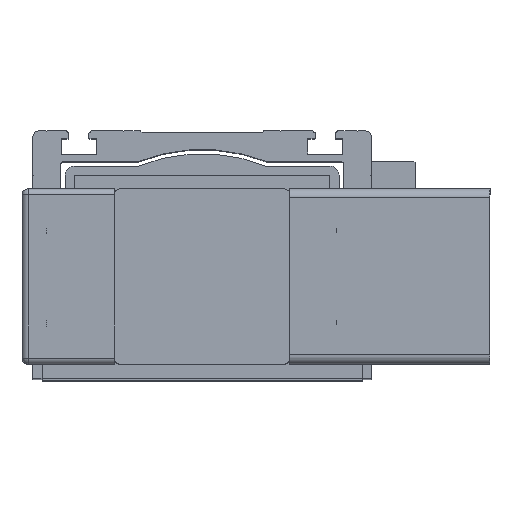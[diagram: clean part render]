
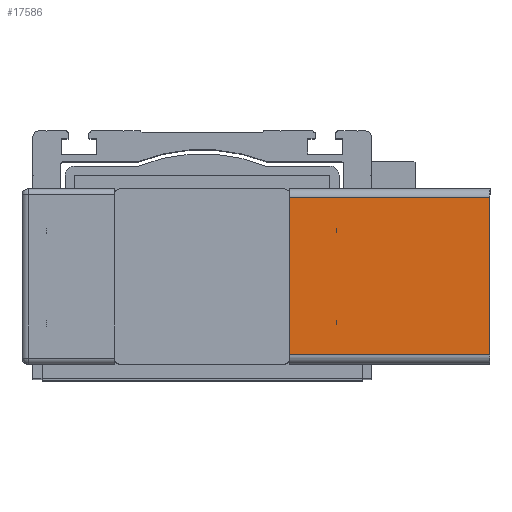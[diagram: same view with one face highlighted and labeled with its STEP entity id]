
A CAD part, top view. The second image highlights one B-rep face of the part: STEP entity #17586.
In plain terms, the highlighted planar face has unit normal (0, 0, 1) as drawn and (-1, 0, 0) by its records, which use the part's own axes.
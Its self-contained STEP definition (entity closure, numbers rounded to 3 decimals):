
#17320=CARTESIAN_POINT('',(0.0,54.0,0.0));
#17321=VERTEX_POINT('',#17320);
#17329=CARTESIAN_POINT('',(0.0,3.,0.0));
#17330=VERTEX_POINT('',#17329);
#17331=CARTESIAN_POINT('',(0.0,54.0,0.0));
#17332=DIRECTION('',(0.0,-1.0,0.0));
#17333=VECTOR('',#17332,51.0);
#17334=LINE('',#17331,#17333);
#17335=EDGE_CURVE('',#17321,#17330,#17334,.T.);
#17469=CARTESIAN_POINT('',(0.0,3.,-65.0));
#17470=VERTEX_POINT('',#17469);
#17487=CARTESIAN_POINT('',(0.0,3.,0.0));
#17488=DIRECTION('',(0.0,0.0,-1.0));
#17489=VECTOR('',#17488,65.0);
#17490=LINE('',#17487,#17489);
#17491=EDGE_CURVE('',#17330,#17470,#17490,.T.);
#17545=CARTESIAN_POINT('',(0.0,54.0,-65.0));
#17546=VERTEX_POINT('',#17545);
#17554=CARTESIAN_POINT('',(0.0,54.0,-65.0));
#17555=DIRECTION('',(0.0,0.0,1.0));
#17556=VECTOR('',#17555,65.0);
#17557=LINE('',#17554,#17556);
#17558=EDGE_CURVE('',#17546,#17321,#17557,.T.);
#17570=CARTESIAN_POINT('',(0.0,57.0,0.0));
#17571=DIRECTION('',(-1.0,0.0,0.0));
#17572=DIRECTION('',(0.0,0.0,1.0));
#17573=AXIS2_PLACEMENT_3D('',#17570,#17571,#17572);
#17574=PLANE('',#17573);
#17575=ORIENTED_EDGE('',*,*,#17491,.F.);
#17576=ORIENTED_EDGE('',*,*,#17335,.F.);
#17577=ORIENTED_EDGE('',*,*,#17558,.F.);
#17578=CARTESIAN_POINT('',(0.0,54.0,-65.0));
#17579=DIRECTION('',(0.0,-1.0,0.0));
#17580=VECTOR('',#17579,51.0);
#17581=LINE('',#17578,#17580);
#17582=EDGE_CURVE('',#17546,#17470,#17581,.T.);
#17583=ORIENTED_EDGE('',*,*,#17582,.T.);
#17584=EDGE_LOOP('',(#17575,#17576,#17577,#17583));
#17585=FACE_OUTER_BOUND('',#17584,.T.);
#17586=ADVANCED_FACE('',(#17585),#17574,.T.);
